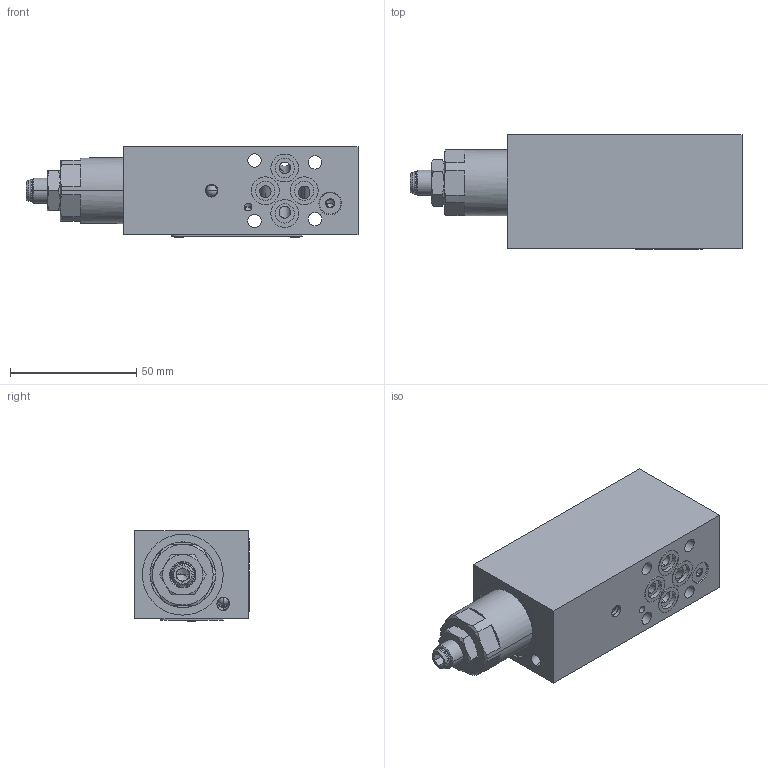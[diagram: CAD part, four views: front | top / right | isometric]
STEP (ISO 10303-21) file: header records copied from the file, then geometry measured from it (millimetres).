
FILE_DESCRIPTION((''),'2;1');
FILE_NAME('1000302142_ASM','2021-09-07T',('l.soukupova'),(''),'PRO/ENGINEER BY PARAMETRIC TECHNOLOGY CORPORATION, 2015440','PRO/ENGINEER BY PARAMETRIC TECHNOLOGY CORPORATION, 2015440','');
FILE_SCHEMA(('AUTOMOTIVE_DESIGN { 1 0 10303 214 1 1 1 1 }'));
Length unit declared in the file: millimetre
Products named in the file (21): 22771501; 1000155353; 1000155357; 1000155355; 1000046475; 1000085480; CSN_022925_10_AF0; ISO_4035_M10X1_88_ZN; CSN_022925_8_AF0; SSA01270103031C0_320003; SSA01550131034C0_320038; SSA01700146034C0_320042; OR2001800_201239; 1000155361_ASM; MB850_040E; MB850_050E; RD_LABEL_25X52_159703; POUZDRO1; AF_1932_16485; DKAR00011_N70; 1000302142_ASM
Assembly tree (31 placements, depth 3):
  1000302142_ASM
    22771501
    1000155361_ASM
      1000155353
      1000155357
      1000155355
      1000046475
      1000085480
      CSN_022925_10_AF0
      ISO_4035_M10X1_88_ZN
      CSN_022925_8_AF0
      SSA01270103031C0_320003
      SSA01550131034C0_320038
      SSA01700146034C0_320042
      OR2001800_201239
    MB850_040E  x7
    MB850_050E  x2
    RD_LABEL_25X52_159703
    POUZDRO1
    AF_1932_16485  x2
    DKAR00011_N70  x4
Bounding box: 131.5 x 45.28 x 36 mm (x, y, z)
Volume: 146457.5 mm3; surface area: 54078.9 mm2
Topology: 30 solids, 38 shells, 1037 faces, 2380 edges, 1475 vertices
Faces by surface type: cone 432, cylinder 345, plane 146, torus 84, sphere 18, bspline 12
Entity records: 41564 total; most frequent: CARTESIAN_POINT 14028, DIRECTION 4182, ORIENTED_EDGE 3426, PRESENTATION_STYLE_ASSIGNMENT 2154, STYLED_ITEM 2068, CURVE_STYLE 1839, AXIS2_PLACEMENT_3D 1745, EDGE_CURVE 1729
